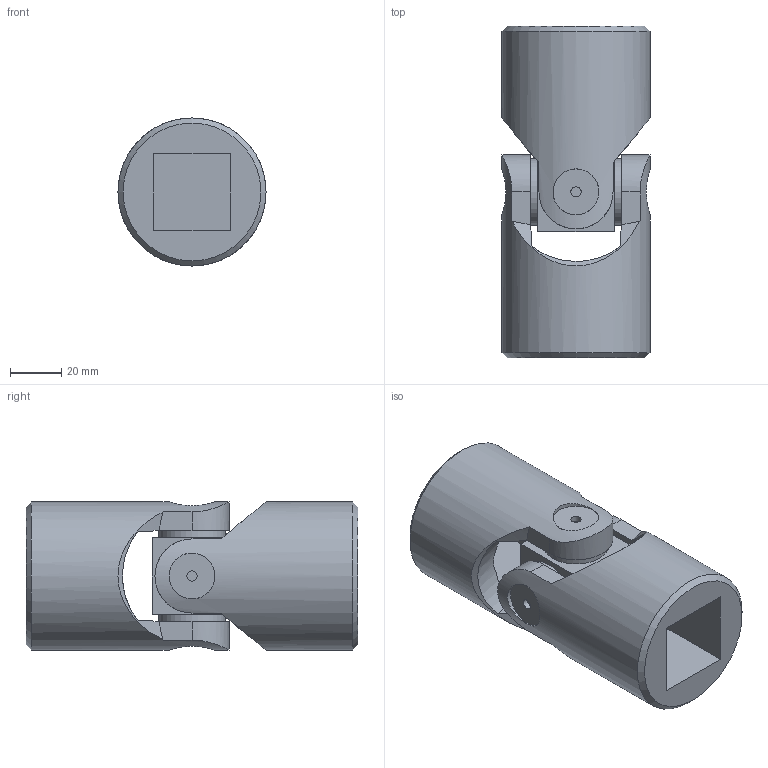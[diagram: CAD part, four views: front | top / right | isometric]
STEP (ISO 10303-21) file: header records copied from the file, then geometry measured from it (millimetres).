
FILE_DESCRIPTION(/* description */ (''),/* implementation_level */ '2;1');
FILE_NAME(/* name */ '\\SRV2016\Societa\Stefano\Disegni 3D\Dis. Clienti\0000Catalogo 3D\01Singoli G-GB\6G1-2Q_SG0S322Q.stp',/* time_stamp */ '2021-11-10T11:21:28+01:00',/* author */ ('acquisti'),/* organization */ (''),/* preprocessor_version */ 'ST-DEVELOPER v15.6',/* originating_system */ 'Autodesk Inventor 2015',/* authorisation */ '');
FILE_SCHEMA (('AUTOMOTIVE_DESIGN { 1 0 10303 214 3 1 1 }'));
Length unit declared in the file: millimetre
Products named in the file (3): 6G SFE; 6G1 MOQ; Assieme1
Assembly tree (3 placements, depth 2):
  Assieme1
    6G SFE
    6G1 MOQ  x2
Bounding box: 58 x 130 x 58 mm (x, y, z)
Volume: 213077.5 mm3; surface area: 48055.8 mm2
Topology: 3 solids, 3 shells, 90 faces, 228 edges, 154 vertices
Faces by surface type: plane 44, cylinder 26, cone 18, torus 2
Full cylindrical faces by diameter (mm): 4 x4, 18 x4, 26 x4, 58 x2
Entity records: 1753 total; most frequent: CARTESIAN_POINT 549, ORIENTED_EDGE 230, DIRECTION 228, EDGE_CURVE 115, AXIS2_PLACEMENT_3D 94, VERTEX_POINT 85, EDGE_LOOP 72, FACE_OUTER_BOUND 52
